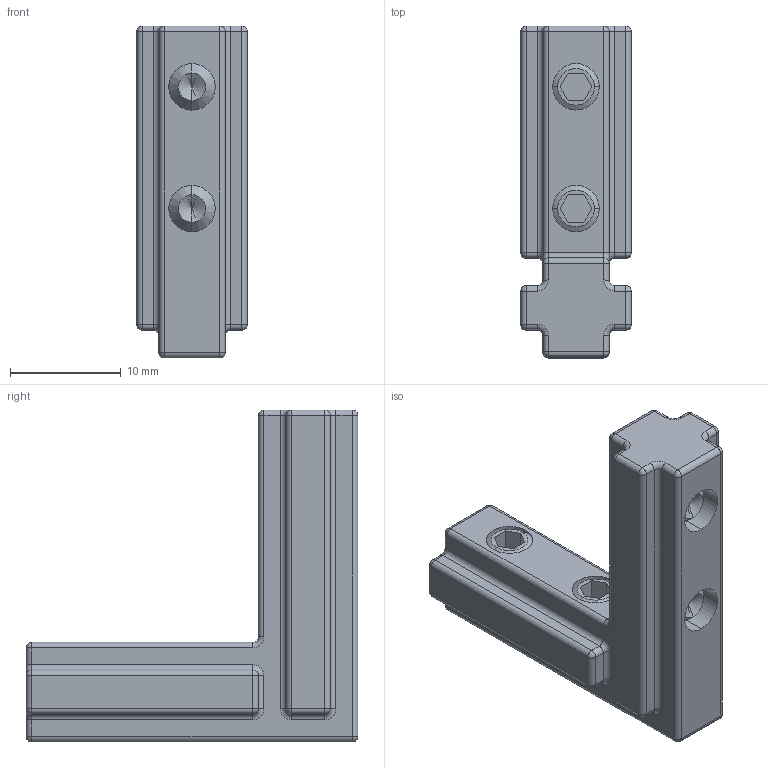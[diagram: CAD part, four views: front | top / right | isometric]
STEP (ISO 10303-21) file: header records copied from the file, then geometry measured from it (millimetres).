
FILE_DESCRIPTION (( 'STEP AP214' ), '1' );
FILE_NAME ('J3RJ.step', '2017-05-24T07:46:19', ( 'admin' ), ( '' ), 'SwSTEP 2.0', 'SolidWorks 2014', '' );
FILE_SCHEMA (( 'AUTOMOTIVE_DESIGN' ));
Length unit declared in the file: millimetre
Products named in the file (3): S0508; J3RJ
Assembly tree (5 placements, depth 2):
  J3RJ
    J3RJ
    S0508  x4
Bounding box: 10 x 30 x 30 mm (x, y, z)
Volume: 3522.2 mm3; surface area: 2988 mm2
Topology: 5 solids, 5 shells, 206 faces, 476 edges, 250 vertices
Faces by surface type: cylinder 82, plane 56, sphere 26, cone 24, torus 18
Entity records: 4488 total; most frequent: DIRECTION 846, CARTESIAN_POINT 693, ORIENTED_EDGE 680, EDGE_CURVE 340, AXIS2_PLACEMENT_3D 340, VERTEX_POINT 187, CIRCLE 174, EDGE_LOOP 167
